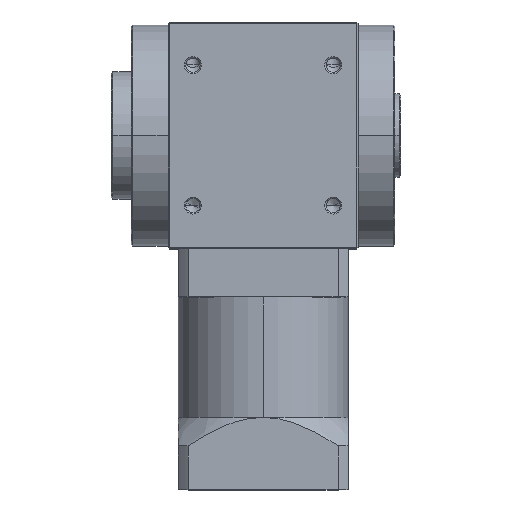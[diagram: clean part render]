
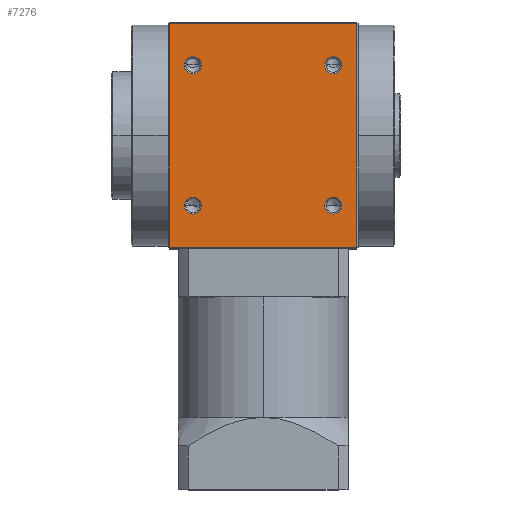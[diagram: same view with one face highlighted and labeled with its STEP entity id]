
A CAD part, top view. The second image highlights one B-rep face of the part: STEP entity #7276.
In plain terms, the highlighted planar face has unit normal (0, 0, 1).
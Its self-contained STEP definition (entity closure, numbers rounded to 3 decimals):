
#4 = FACE_BOUND ( 'NONE', #2514, .T. ) ;
#38 = AXIS2_PLACEMENT_3D ( 'NONE', #148, #3409, #4646 ) ;
#146 = CARTESIAN_POINT ( 'NONE',  ( -33., 40., 40. ) ) ;
#148 = CARTESIAN_POINT ( 'NONE',  ( -24.75, 24.75, 40. ) ) ;
#176 = DIRECTION ( 'NONE',  ( 0., 1., 0. ) ) ;
#238 = AXIS2_PLACEMENT_3D ( 'NONE', #721, #4502, #5203 ) ;
#247 = EDGE_LOOP ( 'NONE', ( #2911, #4316, #360, #7949 ) ) ;
#307 = DIRECTION ( 'NONE',  ( -1., 0., 0. ) ) ;
#360 = ORIENTED_EDGE ( 'NONE', *, *, #5419, .T. ) ;
#415 = CIRCLE ( 'NONE', #238, 3. ) ;
#465 = ORIENTED_EDGE ( 'NONE', *, *, #7631, .T. ) ;
#466 = EDGE_CURVE ( 'NONE', #3443, #2040, #6302, .T. ) ;
#516 = EDGE_CURVE ( 'NONE', #6111, #5005, #5702, .T. ) ;
#554 = VERTEX_POINT ( 'NONE', #6479 ) ;
#721 = CARTESIAN_POINT ( 'NONE',  ( 24.75, 24.75, 40. ) ) ;
#723 = AXIS2_PLACEMENT_3D ( 'NONE', #5606, #3104, #5010 ) ;
#816 = DIRECTION ( 'NONE',  ( 0., 0., -1. ) ) ;
#840 = AXIS2_PLACEMENT_3D ( 'NONE', #5314, #1522, #307 ) ;
#1030 = DIRECTION ( 'NONE',  ( -1., 0., 0. ) ) ;
#1071 = VECTOR ( 'NONE', #176, 1000. ) ;
#1086 = ORIENTED_EDGE ( 'NONE', *, *, #7156, .T. ) ;
#1121 = CARTESIAN_POINT ( 'NONE',  ( 27.75, -24.75, 40. ) ) ;
#1235 = EDGE_CURVE ( 'NONE', #7983, #2978, #1316, .T. ) ;
#1316 = CIRCLE ( 'NONE', #2572, 3. ) ;
#1522 = DIRECTION ( 'NONE',  ( 0., 0., -1. ) ) ;
#1915 = DIRECTION ( 'NONE',  ( 0., 0., -1. ) ) ;
#2040 = VERTEX_POINT ( 'NONE', #3363 ) ;
#2122 = DIRECTION ( 'NONE',  ( -1., 0., 0. ) ) ;
#2263 = EDGE_CURVE ( 'NONE', #2978, #7983, #4238, .T. ) ;
#2383 = CIRCLE ( 'NONE', #5285, 3. ) ;
#2514 = EDGE_LOOP ( 'NONE', ( #465, #2707 ) ) ;
#2572 = AXIS2_PLACEMENT_3D ( 'NONE', #5277, #5903, #2122 ) ;
#2633 = EDGE_CURVE ( 'NONE', #4299, #6436, #8102, .T. ) ;
#2683 = ORIENTED_EDGE ( 'NONE', *, *, #2633, .T. ) ;
#2707 = ORIENTED_EDGE ( 'NONE', *, *, #2715, .T. ) ;
#2715 = EDGE_CURVE ( 'NONE', #6713, #6097, #5547, .T. ) ;
#2848 = CARTESIAN_POINT ( 'NONE',  ( 33.5, 40., 40. ) ) ;
#2911 = ORIENTED_EDGE ( 'NONE', *, *, #5126, .T. ) ;
#2978 = VERTEX_POINT ( 'NONE', #7340 ) ;
#3104 = DIRECTION ( 'NONE',  ( 0., 0., -1. ) ) ;
#3363 = CARTESIAN_POINT ( 'NONE',  ( -33., -39.5, 40. ) ) ;
#3409 = DIRECTION ( 'NONE',  ( 0., 0., -1. ) ) ;
#3443 = VERTEX_POINT ( 'NONE', #7926 ) ;
#3445 = DIRECTION ( 'NONE',  ( 0., 0., -1. ) ) ;
#3592 = DIRECTION ( 'NONE',  ( 0., 0., -1. ) ) ;
#3823 = VECTOR ( 'NONE', #7397, 1000. ) ;
#3952 = FACE_BOUND ( 'NONE', #7257, .T. ) ;
#3972 = DIRECTION ( 'NONE',  ( -1., 0., 0. ) ) ;
#4061 = EDGE_CURVE ( 'NONE', #6436, #4299, #7486, .T. ) ;
#4111 = CARTESIAN_POINT ( 'NONE',  ( 33., 39.5, 40. ) ) ;
#4125 = CARTESIAN_POINT ( 'NONE',  ( 33.5, 39.5, 40. ) ) ;
#4227 = DIRECTION ( 'NONE',  ( -1., 0., 0. ) ) ;
#4238 = CIRCLE ( 'NONE', #723, 3. ) ;
#4299 = VERTEX_POINT ( 'NONE', #7889 ) ;
#4316 = ORIENTED_EDGE ( 'NONE', *, *, #516, .T. ) ;
#4502 = DIRECTION ( 'NONE',  ( 0., 0., -1. ) ) ;
#4534 = DIRECTION ( 'NONE',  ( 0., -1., 0. ) ) ;
#4566 = EDGE_LOOP ( 'NONE', ( #6753, #4659 ) ) ;
#4631 = VECTOR ( 'NONE', #4534, 1000. ) ;
#4646 = DIRECTION ( 'NONE',  ( -1., 0., 0. ) ) ;
#4659 = ORIENTED_EDGE ( 'NONE', *, *, #2263, .T. ) ;
#5005 = VERTEX_POINT ( 'NONE', #4111 ) ;
#5010 = DIRECTION ( 'NONE',  ( -1., 0., 0. ) ) ;
#5126 = EDGE_CURVE ( 'NONE', #2040, #6111, #6567, .T. ) ;
#5138 = FACE_OUTER_BOUND ( 'NONE', #247, .T. ) ;
#5176 = CARTESIAN_POINT ( 'NONE',  ( 33., -39.5, 40. ) ) ;
#5203 = DIRECTION ( 'NONE',  ( -1., 0., 0. ) ) ;
#5277 = CARTESIAN_POINT ( 'NONE',  ( -24.75, -24.75, 40. ) ) ;
#5285 = AXIS2_PLACEMENT_3D ( 'NONE', #6182, #3592, #4227 ) ;
#5314 = CARTESIAN_POINT ( 'NONE',  ( 24.75, 24.75, 40. ) ) ;
#5363 = EDGE_LOOP ( 'NONE', ( #5590, #2683 ) ) ;
#5419 = EDGE_CURVE ( 'NONE', #5005, #3443, #7037, .T. ) ;
#5530 = FACE_BOUND ( 'NONE', #5363, .T. ) ;
#5547 = CIRCLE ( 'NONE', #840, 3. ) ;
#5590 = ORIENTED_EDGE ( 'NONE', *, *, #4061, .T. ) ;
#5606 = CARTESIAN_POINT ( 'NONE',  ( -24.75, -24.75, 40. ) ) ;
#5625 = FACE_BOUND ( 'NONE', #4566, .T. ) ;
#5702 = LINE ( 'NONE', #7777, #1071 ) ;
#5753 = CARTESIAN_POINT ( 'NONE',  ( -24.75, 24.75, 40. ) ) ;
#5763 = AXIS2_PLACEMENT_3D ( 'NONE', #5753, #1915, #7666 ) ;
#5903 = DIRECTION ( 'NONE',  ( 0., 0., -1. ) ) ;
#5909 = ORIENTED_EDGE ( 'NONE', *, *, #8154, .T. ) ;
#6003 = AXIS2_PLACEMENT_3D ( 'NONE', #6541, #816, #3972 ) ;
#6097 = VERTEX_POINT ( 'NONE', #7726 ) ;
#6111 = VERTEX_POINT ( 'NONE', #5176 ) ;
#6182 = CARTESIAN_POINT ( 'NONE',  ( 24.75, -24.75, 40. ) ) ;
#6302 = LINE ( 'NONE', #146, #4631 ) ;
#6363 = VECTOR ( 'NONE', #1030, 1000. ) ;
#6436 = VERTEX_POINT ( 'NONE', #7678 ) ;
#6476 = CARTESIAN_POINT ( 'NONE',  ( -21.75, -24.75, 40. ) ) ;
#6479 = CARTESIAN_POINT ( 'NONE',  ( 21.75, -24.75, 40. ) ) ;
#6541 = CARTESIAN_POINT ( 'NONE',  ( 24.75, -24.75, 40. ) ) ;
#6567 = LINE ( 'NONE', #6684, #3823 ) ;
#6684 = CARTESIAN_POINT ( 'NONE',  ( 33.5, -39.5, 40. ) ) ;
#6713 = VERTEX_POINT ( 'NONE', #7181 ) ;
#6753 = ORIENTED_EDGE ( 'NONE', *, *, #1235, .T. ) ;
#6976 = AXIS2_PLACEMENT_3D ( 'NONE', #2848, #3445, #7838 ) ;
#6982 = CIRCLE ( 'NONE', #6003, 3. ) ;
#7037 = LINE ( 'NONE', #4125, #6363 ) ;
#7156 = EDGE_CURVE ( 'NONE', #7383, #554, #6982, .T. ) ;
#7181 = CARTESIAN_POINT ( 'NONE',  ( 21.75, 24.75, 40. ) ) ;
#7198 = PLANE ( 'NONE',  #6976 ) ;
#7257 = EDGE_LOOP ( 'NONE', ( #1086, #5909 ) ) ;
#7276 = ADVANCED_FACE ( 'NONE', ( #5625, #3952, #4, #5530, #5138 ), #7198, .F. ) ;
#7340 = CARTESIAN_POINT ( 'NONE',  ( -27.75, -24.75, 40. ) ) ;
#7383 = VERTEX_POINT ( 'NONE', #1121 ) ;
#7397 = DIRECTION ( 'NONE',  ( 1., 0., 0. ) ) ;
#7486 = CIRCLE ( 'NONE', #5763, 3. ) ;
#7631 = EDGE_CURVE ( 'NONE', #6097, #6713, #415, .T. ) ;
#7666 = DIRECTION ( 'NONE',  ( -1., 0., 0. ) ) ;
#7678 = CARTESIAN_POINT ( 'NONE',  ( -21.75, 24.75, 40. ) ) ;
#7726 = CARTESIAN_POINT ( 'NONE',  ( 27.75, 24.75, 40. ) ) ;
#7777 = CARTESIAN_POINT ( 'NONE',  ( 33., 40., 40. ) ) ;
#7838 = DIRECTION ( 'NONE',  ( -1., 0., 0. ) ) ;
#7889 = CARTESIAN_POINT ( 'NONE',  ( -27.75, 24.75, 40. ) ) ;
#7926 = CARTESIAN_POINT ( 'NONE',  ( -33., 39.5, 40. ) ) ;
#7949 = ORIENTED_EDGE ( 'NONE', *, *, #466, .T. ) ;
#7983 = VERTEX_POINT ( 'NONE', #6476 ) ;
#8102 = CIRCLE ( 'NONE', #38, 3. ) ;
#8154 = EDGE_CURVE ( 'NONE', #554, #7383, #2383, .T. ) ;
